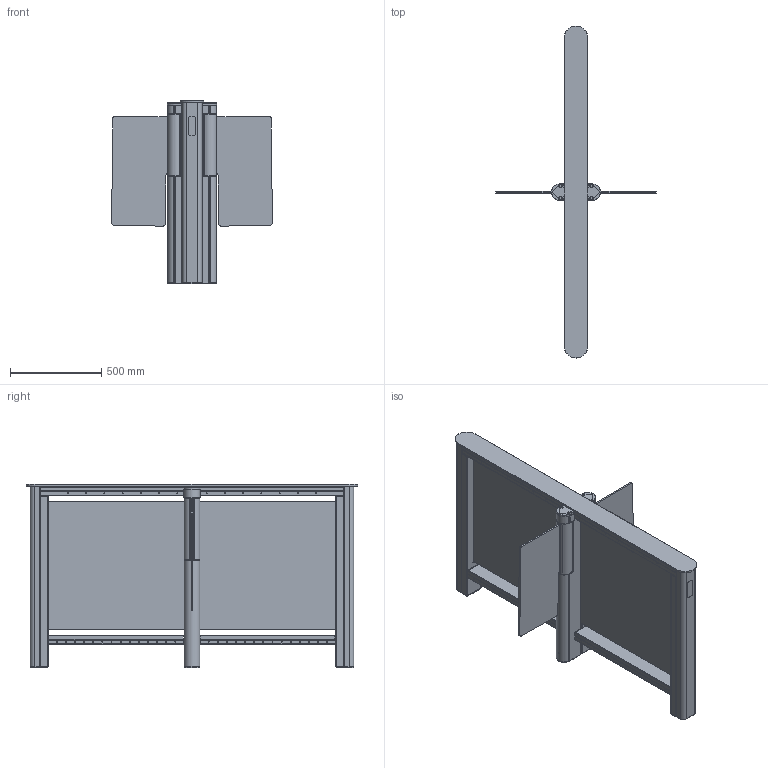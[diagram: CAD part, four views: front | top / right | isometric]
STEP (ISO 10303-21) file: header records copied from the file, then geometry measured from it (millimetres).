
FILE_DESCRIPTION(/* description */ ('Unknown'),/* implementation_level */ '2;1');
FILE_NAME(/* name */ 'ST-01_D_650',/* time_stamp */ '2021-12-23T13:29:33+03:00',/* author */ ('Unknown'),/* organization */ ('Unknown'),/* preprocessor_version */ 'ST-DEVELOPER v18.1',/* originating_system */ 'Solid Edge',/* authorisation */ 'Unknown');
FILE_SCHEMA (('CONFIG_CONTROL_DESIGN'));
Products named in the file (160): ST-01_D; ST-01.1.006.00 砎魤鍱_oa_0; ST-01.1.002.00 栺鍣罻_oa_1; ST-01.1.002.02 砑僔蠂縺; ST-01.1.005.08 扻豵鵨; ST-01.1.031.00 沓劌錪 瀔魤鍱趌oa_2; ST-01.1.036.00 昜闉趌oa_3; BG65x25+PLG52+mufta_oa_4; ST-01.045.00ﾑﾁ ﾊ濱oa_5; ST-01.046.00 ﾊ濱oa_6; ST-01.046.09 Êîæóõ-Ïî óìîë÷àíèþ; ST-01.047.00 扰鍙欙樥燲oa_7; ST-01.047.04 Êðîíøòåéí-Ïî óìîë÷àíèþ; ST-01.760.00 Ïëàòà ýëåêòðîïðèâîäà_oa_8; ST-01.000.04 Ñòâîðêà; ST-01.920.00 Êàáåëü ñîåäèíåíèÿ CAN; ST-01.1.004.00捘 昜闉趌oa_9; ST-01.1.004.06 Îïîðà; ST-01.008.00 ﾊ濱oa_10; ST-01.008.05 Êîæóõ; ST-01.008.00 ﾊ濱oa_11; ST-01.900.00 Êàáåëü ñîåäèíåíèÿ  DC; Äæàìïåð MJ-0_13; 淟檍瀖睯貗; ST-01.1.006.00 砎魤鍱_oa_12; ST-01.1.002.00 栺鍣罻_oa_13; ST-01.1.031.00 沓劌錪 瀔魤鍱趌oa_14; ST-01.1.036.00 昜闉趌oa_15; BG65x25+PLG52+mufta_oa_16; ST-01.045.00ﾑﾁ ﾊ濱oa_17; ST-01.046.00 ﾊ濱oa_18; ST-01.047.00 扰鍙欙樥燲oa_19; ST-01.760.00 Ïëàòà ýëåêòðîïðèâîäà_oa_20; ST-01.771.00 Ïëàòà óïðàâëåíèÿ_oa_21; Ïëîùàäêà ñàìîêëåþùàÿñÿ-c õîìóòîì; ST-01.922.00 忺摎錪 嚦鍣膱 CAN 椿; ST-01.1.004.00捘 昜闉趌oa_22; ST-01.008.00 ﾊ濱oa_23; ST-01.008.00 ﾊ濱oa_24; ST-01.921.00 忺摎錪 CAN 椿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
Assembly tree (222 placements, depth 5):
  ST-01_D
    ST-01.1.006.00 砎魤鍱_oa_0
      ST-01.1.002.00 栺鍣罻_oa_1
        ST-01.1.002.02 砑僔蠂縺
      ST-01.1.005.08 扻豵鵨
      ST-01.1.031.00 沓劌錪 瀔魤鍱趌oa_2
        ST-01.1.036.00 昜闉趌oa_3
        BG65x25+PLG52+mufta_oa_4
      ST-01.045.00ﾑﾁ ﾊ濱oa_5
        ST-01.046.00 ﾊ濱oa_6
          ST-01.046.09 Êîæóõ-Ïî óìîë÷àíèþ
        ST-01.047.00 扰鍙欙樥燲oa_7
          ST-01.047.04 Êðîíøòåéí-Ïî óìîë÷àíèþ
      ST-01.760.00 Ïëàòà ýëåêòðîïðèâîäà_oa_8
      ST-01.000.04 Ñòâîðêà
      ST-01.920.00 Êàáåëü ñîåäèíåíèÿ CAN
      ST-01.1.004.00捘 昜闉趌oa_9
        ST-01.1.004.06 Îïîðà
      ST-01.008.00 ﾊ濱oa_10
        ST-01.008.05 Êîæóõ
      ST-01.008.00 ﾊ濱oa_11
        ST-01.008.05 Êîæóõ
      ST-01.900.00 Êàáåëü ñîåäèíåíèÿ  DC
      Äæàìïåð MJ-0_13
      淟檍瀖睯貗  x3
    ST-01.1.006.00 砎魤鍱_oa_12
      ST-01.1.002.00 栺鍣罻_oa_13
        ST-01.1.002.02 砑僔蠂縺
      ST-01.1.005.08 扻豵鵨
      ST-01.1.031.00 沓劌錪 瀔魤鍱趌oa_14
        ST-01.1.036.00 昜闉趌oa_15
        BG65x25+PLG52+mufta_oa_16
      ST-01.045.00ﾑﾁ ﾊ濱oa_17
        ST-01.046.00 ﾊ濱oa_18
          ST-01.046.09 Êîæóõ-Ïî óìîë÷àíèþ
        ST-01.047.00 扰鍙欙樥燲oa_19
          ST-01.047.04 Êðîíøòåéí-Ïî óìîë÷àíèþ
      ST-01.760.00 Ïëàòà ýëåêòðîïðèâîäà_oa_20
      ST-01.771.00 Ïëàòà óïðàâëåíèÿ_oa_21
      Ïëîùàäêà ñàìîêëåþùàÿñÿ-c õîìóòîì
      ST-01.922.00 忺摎錪 嚦鍣膱 CAN 椿
      ST-01.000.04 Ñòâîðêà
      ST-01.1.004.00捘 昜闉趌oa_22
        ST-01.1.004.06 Îïîðà
      ST-01.008.00 ﾊ濱oa_23
        ST-01.008.05 Êîæóõ
      ST-01.008.00 ﾊ濱oa_24
        ST-01.008.05 Êîæóõ
      ST-01.921.00 忺摎錪 CAN 椿
      淟檍瀖睯貗  x3
      RTD-03.715.00 Ïåðåìû÷êà
      ST-01.923.00 忺摎錪 嚦鍣膱 CAN
      ST-01.905.00 忺摎錪 DC 椿
    ST-01.1.010.00ﾑﾁ ﾊ濱oa_25
      ST-01.740.00 Ïëàòà èíäèêàòîðíîé ñòîéêè_oa_26
      ST-01.1.010.10 Ñòåêëî-Ïî óìîë÷àíèþ
      ST-01.1.011.00 ﾊ濱oa_27
        ST-01.1.011.05 署赅
      ST-01.1.009.00捘 扻豵鵨_oa_28
        ST-01.009.25 Êîæóõ
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Bounding box: 880.39 x 1820 x 1004.7 mm (x, y, z)
Volume: 20189595.3 mm3; surface area: 10254368.4 mm2
Topology: 64 solids, 64 shells, 3543 faces, 9311 edges, 5872 vertices
Faces by surface type: plane 2508, cylinder 831, bspline 164, cone 32, torus 8
Full cylindrical faces by diameter (mm): 3.3 x44, 3.5 x12, 4 x13, 4.2 x5, 5 x104, 5.5 x8, 6 x10, 7 x18, 8 x1, 9 x1, 10 x6, 11 x18, 12 x16, 13.5 x4, 16 x4, 82.099 x1, 87 x2
Entity records: 77018 total; most frequent: CARTESIAN_POINT 17658, ORIENTED_EDGE 11542, DIRECTION 11161, EDGE_CURVE 5771, LINE 4389, VECTOR 4389, VERTEX_POINT 3774, AXIS2_PLACEMENT_3D 3386
